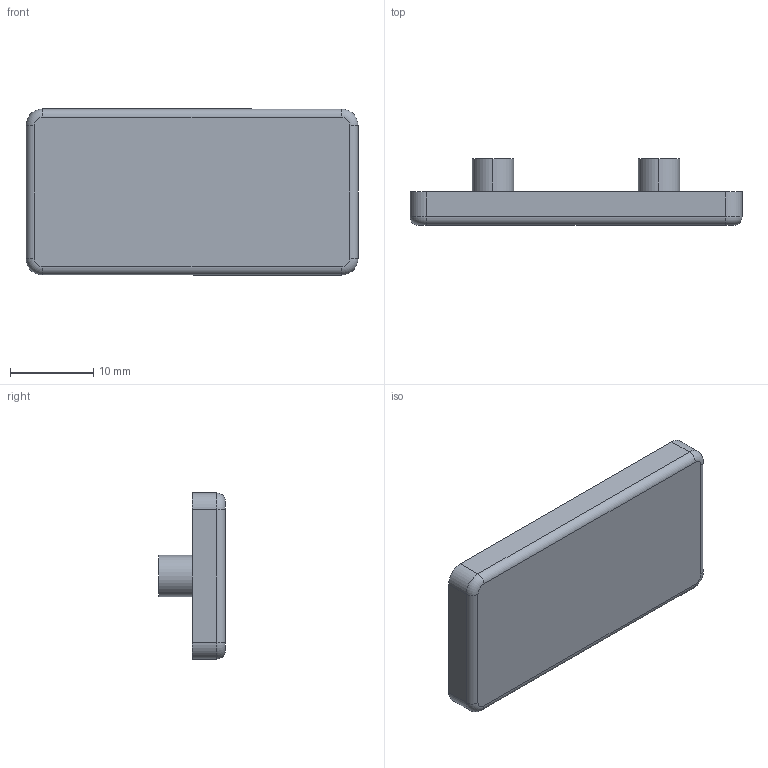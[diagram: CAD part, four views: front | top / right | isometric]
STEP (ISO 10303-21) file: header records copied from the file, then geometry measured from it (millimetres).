
FILE_DESCRIPTION (( 'STEP AP203' ), '1' );
FILE_NAME ('EC20X40.STEP', '2018-03-15T12:37:37', ( '' ), ( '' ), 'SwSTEP 2.0', 'SolidWorks 2013', '' );
FILE_SCHEMA (( 'CONFIG_CONTROL_DESIGN' ));
Length unit declared in the file: millimetre
Products named in the file (1): EC20X40
Bounding box: 40 x 8 x 20 mm (x, y, z)
Volume: 2049.1 mm3; surface area: 2545.2 mm2
Topology: 1 solids, 1 shells, 39 faces, 84 edges, 52 vertices
Faces by surface type: cylinder 16, plane 15, cone 4, torus 4
Entity records: 1139 total; most frequent: DIRECTION 204, CARTESIAN_POINT 176, ORIENTED_EDGE 168, EDGE_CURVE 84, AXIS2_PLACEMENT_3D 80, VERTEX_POINT 52, VECTOR 44, LINE 44
